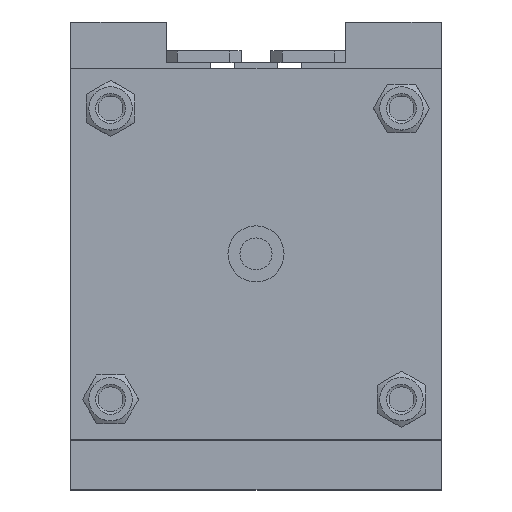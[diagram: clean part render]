
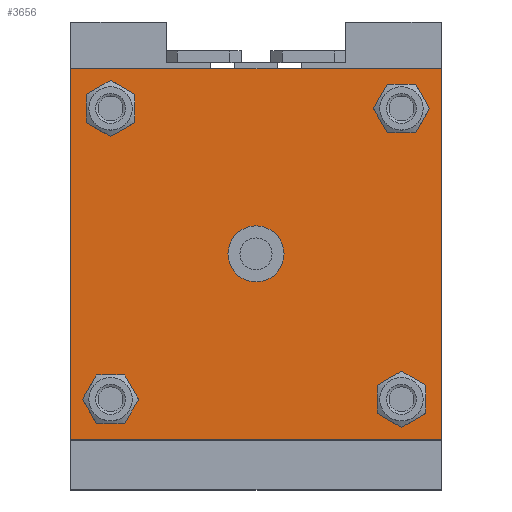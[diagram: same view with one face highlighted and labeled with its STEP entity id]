
A CAD part, top view. The second image highlights one B-rep face of the part: STEP entity #3656.
In plain terms, the highlighted planar face has unit normal (0, 0, 1).
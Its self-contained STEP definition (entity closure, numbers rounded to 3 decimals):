
#382=CARTESIAN_POINT('',(44.691,38.891,364.));
#383=VERTEX_POINT('',#382);
#384=CARTESIAN_POINT('',(38.891,38.891,364.));
#385=DIRECTION('',(0.0,0.0,-1.0));
#386=DIRECTION('',(1.0,0.0,0.0));
#387=AXIS2_PLACEMENT_3D('',#384,#385,#386);
#388=CIRCLE('',#387,5.8);
#389=EDGE_CURVE('',#383,#383,#388,.T.);
#822=CARTESIAN_POINT('',(38.891,-44.691,364.));
#823=VERTEX_POINT('',#822);
#824=CARTESIAN_POINT('',(38.891,-38.891,364.));
#825=DIRECTION('',(0.0,0.0,-1.0));
#826=DIRECTION('',(0.0,-1.0,0.0));
#827=AXIS2_PLACEMENT_3D('',#824,#825,#826);
#828=CIRCLE('',#827,5.8);
#829=EDGE_CURVE('',#823,#823,#828,.T.);
#1262=CARTESIAN_POINT('',(-44.691,-38.891,364.));
#1263=VERTEX_POINT('',#1262);
#1264=CARTESIAN_POINT('',(-38.891,-38.891,364.));
#1265=DIRECTION('',(0.0,0.0,-1.0));
#1266=DIRECTION('',(-1.0,0.0,0.0));
#1267=AXIS2_PLACEMENT_3D('',#1264,#1265,#1266);
#1268=CIRCLE('',#1267,5.8);
#1269=EDGE_CURVE('',#1263,#1263,#1268,.T.);
#1702=CARTESIAN_POINT('',(-38.891,44.691,364.));
#1703=VERTEX_POINT('',#1702);
#1704=CARTESIAN_POINT('',(-38.891,38.891,364.));
#1705=DIRECTION('',(0.0,0.0,-1.0));
#1706=DIRECTION('',(0.0,1.0,0.0));
#1707=AXIS2_PLACEMENT_3D('',#1704,#1705,#1706);
#1708=CIRCLE('',#1707,5.8);
#1709=EDGE_CURVE('',#1703,#1703,#1708,.T.);
#3423=CARTESIAN_POINT('',(7.5,0.0,364.));
#3424=VERTEX_POINT('',#3423);
#3425=CARTESIAN_POINT('',(0.0,0.0,364.));
#3426=DIRECTION('',(0.0,0.0,-1.0));
#3427=DIRECTION('',(1.0,0.0,0.0));
#3428=AXIS2_PLACEMENT_3D('',#3425,#3426,#3427);
#3429=CIRCLE('',#3428,7.5);
#3430=EDGE_CURVE('',#3424,#3424,#3429,.T.);
#3511=CARTESIAN_POINT('',(49.5,49.5,364.));
#3512=VERTEX_POINT('',#3511);
#3513=CARTESIAN_POINT('',(49.5,-49.5,364.));
#3514=VERTEX_POINT('',#3513);
#3515=CARTESIAN_POINT('',(49.5,49.5,364.));
#3516=DIRECTION('',(0.0,-1.0,0.0));
#3517=VECTOR('',#3516,99.);
#3518=LINE('',#3515,#3517);
#3519=EDGE_CURVE('',#3512,#3514,#3518,.T.);
#3551=CARTESIAN_POINT('',(-49.5,-49.5,364.));
#3552=VERTEX_POINT('',#3551);
#3553=CARTESIAN_POINT('',(49.5,-49.5,364.));
#3554=DIRECTION('',(-1.0,0.0,0.0));
#3555=VECTOR('',#3554,99.);
#3556=LINE('',#3553,#3555);
#3557=EDGE_CURVE('',#3514,#3552,#3556,.T.);
#3582=CARTESIAN_POINT('',(-49.5,49.5,364.));
#3583=VERTEX_POINT('',#3582);
#3584=CARTESIAN_POINT('',(-49.5,-49.5,364.));
#3585=DIRECTION('',(0.0,1.0,0.0));
#3586=VECTOR('',#3585,99.);
#3587=LINE('',#3584,#3586);
#3588=EDGE_CURVE('',#3552,#3583,#3587,.T.);
#3613=CARTESIAN_POINT('',(-49.5,49.5,364.));
#3614=DIRECTION('',(1.0,0.0,0.0));
#3615=VECTOR('',#3614,99.0);
#3616=LINE('',#3613,#3615);
#3617=EDGE_CURVE('',#3583,#3512,#3616,.T.);
#3630=CARTESIAN_POINT('',(0.,0.,364.));
#3631=DIRECTION('',(0.0,0.0,1.0));
#3632=DIRECTION('',(1.0,0.0,0.0));
#3633=AXIS2_PLACEMENT_3D('',#3630,#3631,#3632);
#3634=PLANE('',#3633);
#3635=ORIENTED_EDGE('',*,*,#3519,.F.);
#3636=ORIENTED_EDGE('',*,*,#3617,.F.);
#3637=ORIENTED_EDGE('',*,*,#3588,.F.);
#3638=ORIENTED_EDGE('',*,*,#3557,.F.);
#3639=EDGE_LOOP('',(#3635,#3636,#3637,#3638));
#3640=FACE_OUTER_BOUND('',#3639,.T.);
#3641=ORIENTED_EDGE('',*,*,#389,.T.);
#3642=EDGE_LOOP('',(#3641));
#3643=FACE_BOUND('',#3642,.T.);
#3644=ORIENTED_EDGE('',*,*,#829,.T.);
#3645=EDGE_LOOP('',(#3644));
#3646=FACE_BOUND('',#3645,.T.);
#3647=ORIENTED_EDGE('',*,*,#1269,.T.);
#3648=EDGE_LOOP('',(#3647));
#3649=FACE_BOUND('',#3648,.T.);
#3650=ORIENTED_EDGE('',*,*,#1709,.T.);
#3651=EDGE_LOOP('',(#3650));
#3652=FACE_BOUND('',#3651,.T.);
#3653=ORIENTED_EDGE('',*,*,#3430,.T.);
#3654=EDGE_LOOP('',(#3653));
#3655=FACE_BOUND('',#3654,.T.);
#3656=ADVANCED_FACE('',(#3640,#3643,#3646,#3649,#3652,#3655),#3634,.T.);
